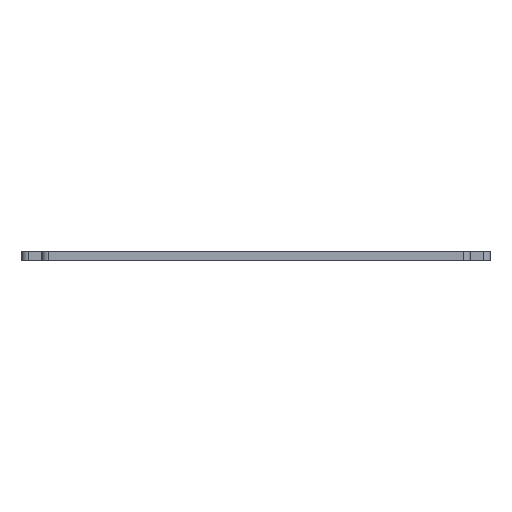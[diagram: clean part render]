
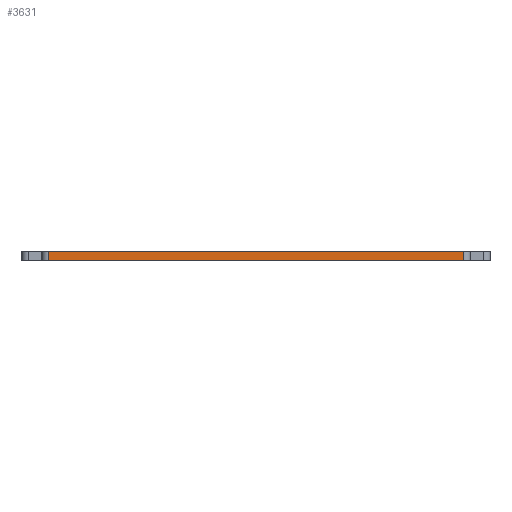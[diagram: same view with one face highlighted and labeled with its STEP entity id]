
A CAD part, front view. The second image highlights one B-rep face of the part: STEP entity #3631.
In plain terms, the highlighted planar face has unit normal (0, -1, 0).
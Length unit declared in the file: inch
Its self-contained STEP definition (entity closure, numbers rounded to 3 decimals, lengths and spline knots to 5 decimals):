
#288=PLANE('',#3967);
#317=FACE_OUTER_BOUND('',#619,.T.);
#619=EDGE_LOOP('',(#2671,#2672,#2673,#2674));
#941=LINE('',#5506,#1153);
#946=LINE('',#5787,#1158);
#947=LINE('',#5790,#1159);
#948=LINE('',#5791,#1160);
#1153=VECTOR('',#4347,0.3937);
#1158=VECTOR('',#4630,0.3937);
#1159=VECTOR('',#4633,0.3937);
#1160=VECTOR('',#4634,0.3937);
#1666=VERTEX_POINT('',#5503);
#1667=VERTEX_POINT('',#5505);
#1804=VERTEX_POINT('',#5785);
#1805=VERTEX_POINT('',#5789);
#2008=EDGE_CURVE('',#1667,#1666,#941,.T.);
#2149=EDGE_CURVE('',#1667,#1804,#946,.T.);
#2150=EDGE_CURVE('',#1805,#1666,#947,.T.);
#2151=EDGE_CURVE('',#1804,#1805,#948,.T.);
#2671=ORIENTED_EDGE('',*,*,#2149,.F.);
#2672=ORIENTED_EDGE('',*,*,#2008,.T.);
#2673=ORIENTED_EDGE('',*,*,#2150,.F.);
#2674=ORIENTED_EDGE('',*,*,#2151,.F.);
#3631=ADVANCED_FACE('',(#317),#288,.T.);
#3967=AXIS2_PLACEMENT_3D('',#5788,#4631,#4632);
#4347=DIRECTION('',(1.,0.,0.));
#4630=DIRECTION('',(0.,0.,1.));
#4631=DIRECTION('center_axis',(0.,-1.,0.));
#4632=DIRECTION('ref_axis',(1.,0.,0.));
#4633=DIRECTION('',(0.,0.,-1.));
#4634=DIRECTION('',(1.,0.,0.));
#5503=CARTESIAN_POINT('',(4.4375,0.,0.));
#5505=CARTESIAN_POINT('',(0.2625,0.,0.));
#5506=CARTESIAN_POINT('',(0.,0.,0.));
#5785=CARTESIAN_POINT('',(0.2625,0.,0.093));
#5787=CARTESIAN_POINT('',(0.2625,0.,0.));
#5788=CARTESIAN_POINT('Origin',(0.2,0.,0.));
#5789=CARTESIAN_POINT('',(4.4375,0.,0.093));
#5790=CARTESIAN_POINT('',(4.4375,0.,0.));
#5791=CARTESIAN_POINT('',(0.,0.,0.093));
